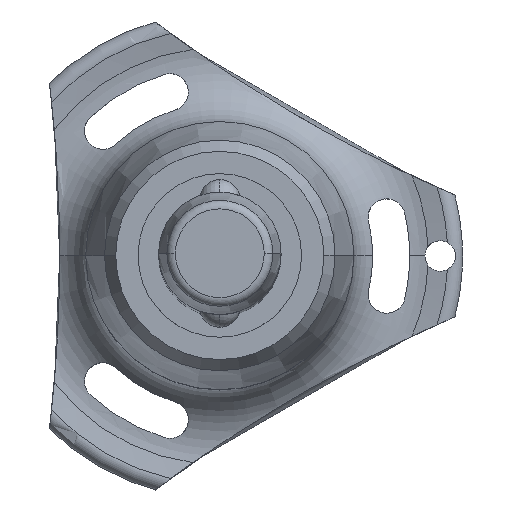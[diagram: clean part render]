
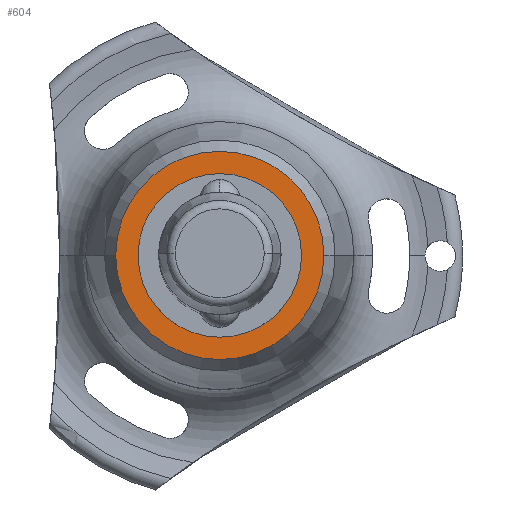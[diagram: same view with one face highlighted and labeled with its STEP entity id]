
A CAD part, top view. The second image highlights one B-rep face of the part: STEP entity #604.
In plain terms, the highlighted planar face has unit normal (0, 0, 1).
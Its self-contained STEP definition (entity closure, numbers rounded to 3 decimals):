
#43 = CARTESIAN_POINT ( 'NONE',  ( -10.206, 0., -110.85 ) ) ;
#153 = AXIS2_PLACEMENT_3D ( 'NONE', #2596, #190, #662 ) ;
#190 = DIRECTION ( 'NONE',  ( 0., 0., -1. ) ) ;
#205 = DIRECTION ( 'NONE',  ( -1., 0., 0. ) ) ;
#258 = DIRECTION ( 'NONE',  ( -1., 0., 0. ) ) ;
#260 = ORIENTED_EDGE ( 'NONE', *, *, #2218, .T. ) ;
#380 = CIRCLE ( 'NONE', #1248, 10.206 ) ;
#430 = CARTESIAN_POINT ( 'NONE',  ( 8.017, 0., -110.85 ) ) ;
#449 = CARTESIAN_POINT ( 'NONE',  ( 0., 0., -110.85 ) ) ;
#457 = VERTEX_POINT ( 'NONE', #1036 ) ;
#510 = VERTEX_POINT ( 'NONE', #43 ) ;
#573 = FACE_BOUND ( 'NONE', #1151, .T. ) ;
#585 = DIRECTION ( 'NONE',  ( 1., 0., 0. ) ) ;
#604 = ADVANCED_FACE ( 'NONE', ( #573, #2325 ), #2755, .T. ) ;
#662 = DIRECTION ( 'NONE',  ( -1., 0., 0. ) ) ;
#880 = DIRECTION ( 'NONE',  ( 0., 0., -1. ) ) ;
#921 = CARTESIAN_POINT ( 'NONE',  ( 0., 0., -110.85 ) ) ;
#948 = DIRECTION ( 'NONE',  ( 0., 0., -1. ) ) ;
#1036 = CARTESIAN_POINT ( 'NONE',  ( -8.017, 0., -110.85 ) ) ;
#1066 = AXIS2_PLACEMENT_3D ( 'NONE', #1178, #2059, #585 ) ;
#1107 = ORIENTED_EDGE ( 'NONE', *, *, #2809, .F. ) ;
#1123 = DIRECTION ( 'NONE',  ( 0., 0., -1. ) ) ;
#1151 = EDGE_LOOP ( 'NONE', ( #260, #1605 ) ) ;
#1178 = CARTESIAN_POINT ( 'NONE',  ( 0., 8.017, -110.85 ) ) ;
#1206 = CIRCLE ( 'NONE', #2425, 10.206 ) ;
#1248 = AXIS2_PLACEMENT_3D ( 'NONE', #921, #1123, #258 ) ;
#1593 = DIRECTION ( 'NONE',  ( -1., 0., 0. ) ) ;
#1605 = ORIENTED_EDGE ( 'NONE', *, *, #1637, .T. ) ;
#1637 = EDGE_CURVE ( 'NONE', #2170, #457, #2659, .T. ) ;
#1684 = CIRCLE ( 'NONE', #1996, 8.017 ) ;
#1692 = VERTEX_POINT ( 'NONE', #2373 ) ;
#1738 = EDGE_LOOP ( 'NONE', ( #2386, #1107 ) ) ;
#1996 = AXIS2_PLACEMENT_3D ( 'NONE', #2489, #948, #1593 ) ;
#2059 = DIRECTION ( 'NONE',  ( 0., 0., 1. ) ) ;
#2170 = VERTEX_POINT ( 'NONE', #430 ) ;
#2218 = EDGE_CURVE ( 'NONE', #457, #2170, #1684, .T. ) ;
#2325 = FACE_OUTER_BOUND ( 'NONE', #1738, .T. ) ;
#2373 = CARTESIAN_POINT ( 'NONE',  ( 10.206, 0., -110.85 ) ) ;
#2386 = ORIENTED_EDGE ( 'NONE', *, *, #2673, .F. ) ;
#2425 = AXIS2_PLACEMENT_3D ( 'NONE', #449, #880, #205 ) ;
#2489 = CARTESIAN_POINT ( 'NONE',  ( 0., 0., -110.85 ) ) ;
#2596 = CARTESIAN_POINT ( 'NONE',  ( 0., 0., -110.85 ) ) ;
#2659 = CIRCLE ( 'NONE', #153, 8.017 ) ;
#2673 = EDGE_CURVE ( 'NONE', #510, #1692, #1206, .T. ) ;
#2755 = PLANE ( 'NONE',  #1066 ) ;
#2809 = EDGE_CURVE ( 'NONE', #1692, #510, #380, .T. ) ;
